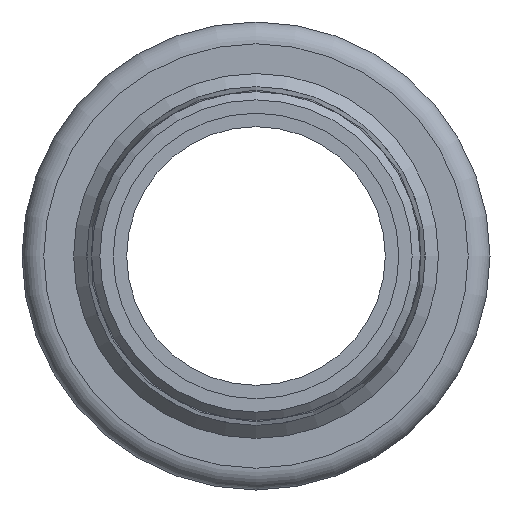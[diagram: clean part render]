
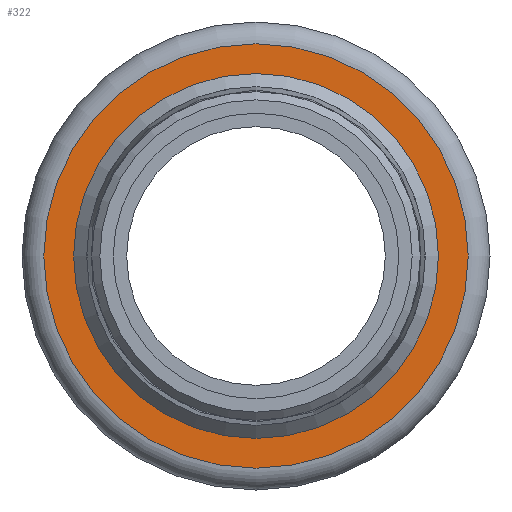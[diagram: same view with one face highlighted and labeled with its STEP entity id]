
A CAD part, front view. The second image highlights one B-rep face of the part: STEP entity #322.
In plain terms, the highlighted planar face has unit normal (0, -1, 0).
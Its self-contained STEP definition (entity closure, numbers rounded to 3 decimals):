
#84=ORIENTED_EDGE('',*,*,#105,.F.);
#85=ORIENTED_EDGE('',*,*,#111,.T.);
#105=EDGE_CURVE('',#126,#126,#147,.T.);
#111=EDGE_CURVE('',#132,#132,#153,.T.);
#126=VERTEX_POINT('',#521);
#132=VERTEX_POINT('',#538);
#147=CIRCLE('',#369,23.);
#153=CIRCLE('',#380,26.754);
#189=EDGE_LOOP('',(#84));
#190=EDGE_LOOP('',(#85));
#231=FACE_BOUND('',#189,.T.);
#232=FACE_BOUND('',#190,.T.);
#245=PLANE('',#379);
#322=ADVANCED_FACE('',(#231,#232),#245,.T.);
#369=AXIS2_PLACEMENT_3D('',#520,#444,#445);
#379=AXIS2_PLACEMENT_3D('',#536,#464,#465);
#380=AXIS2_PLACEMENT_3D('',#537,#466,#467);
#444=DIRECTION('',(0.,-1.,0.));
#445=DIRECTION('',(0.,0.,-1.));
#464=DIRECTION('',(0.,-1.,0.));
#465=DIRECTION('',(0.,0.,-1.));
#466=DIRECTION('',(0.,-1.,0.));
#467=DIRECTION('',(0.,0.,-1.));
#520=CARTESIAN_POINT('',(0.,0.,0.));
#521=CARTESIAN_POINT('',(0.,0.,-23.));
#536=CARTESIAN_POINT('',(0.,0.,21.2));
#537=CARTESIAN_POINT('',(0.,0.,0.));
#538=CARTESIAN_POINT('',(0.,0.,-26.754));
